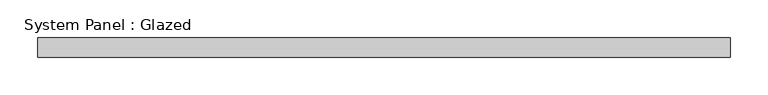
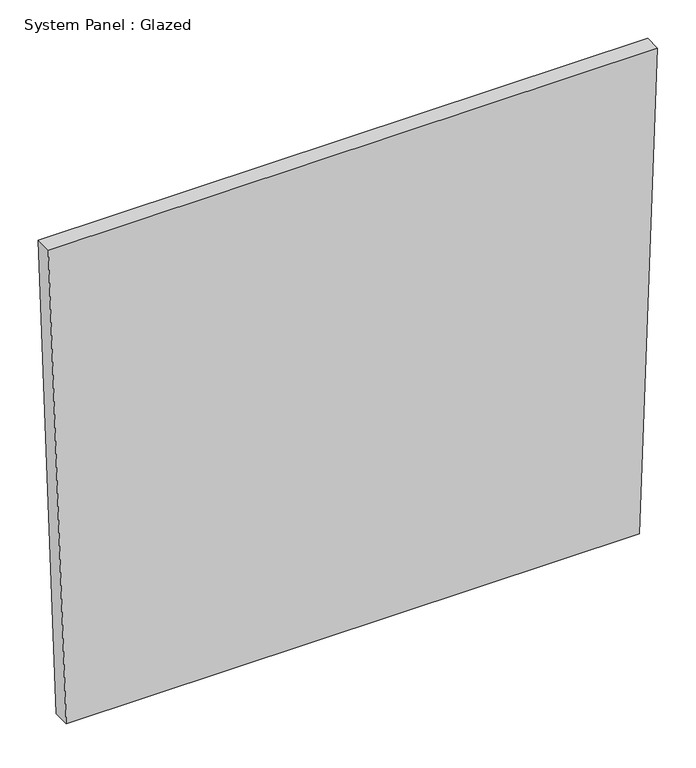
"""IFC4 building model written with IfcOpenShell, lengths in millimetres: plate geometry, System Panel : Glazed."""

from ifc_helpers import new_model, si_unit, frame, origin, place, context, project, spatial, polyline, outline, extrude, source, transform, mapped, element, save


def system_panel_glazed_db9881df(model_context):
    return source(origin(), model_context, "Body", "SweptSolid", [
        extrude(outline(polyline([(0.0, -430.935095), (0.0, 430.935095), (761.5238602, 457.8685385), (761.5238602, -457.8685385), (0.0, -430.935095)])), frame((0.0, -44.45, 0.0), z_axis=(0.0, 1.0, 0.0), x_axis=(0.0, 0.0, 1.0)), (0.0, 0.0, 1.0), 25.4),
    ])


if __name__ == "__main__":
    model = new_model("IFC4")
    model_context = context("Model", 3, world=origin())
    ifc_project = project(units=[si_unit("LENGTHUNIT", "METRE", prefix="MILLI")], contexts=[model_context])
    site = spatial("IfcSite", under=ifc_project)
    building = spatial("IfcBuilding", under=site)
    placement = place(None, origin())
    system_panel_glazed_shape = system_panel_glazed_db9881df(model_context)
    element("IfcPlate", 1, ObjectType="System Panel : Glazed", at=placement, inside=building, context=model_context, shape_type="MappedRepresentation", body=[
        mapped(system_panel_glazed_shape, transform((0.0, 0.0, 0.0), x_axis=(1.0, 0.0, 0.0), y_axis=(0.0, 1.0, 0.0), z_axis=(0.0, 0.0, 1.0))),
    ])
    save(model, "model.ifc")
